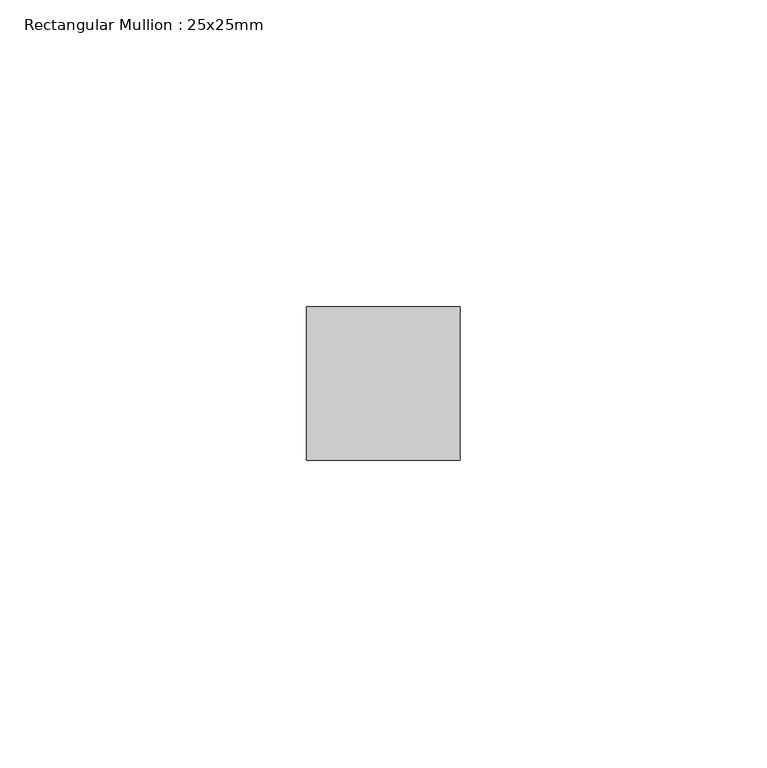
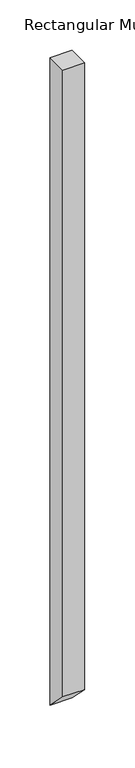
"""IFC4 building model written with IfcOpenShell, lengths in millimetres: member geometry, Rectangular Mullion : 25x25mm."""

from ifc_helpers import new_model, si_unit, frame, origin, place, context, project, spatial, polyline, outline, extrude, source, transform, mapped, element, save


def rectangular_mullion_25x25mm_576a80d7(model_context):
    return source(origin(), model_context, "Body", "SweptSolid", [
        extrude(outline(polyline([(-0.5, 0.0), (24.5, 0.0), (24.5, -784.5000001), (-0.5, -759.5000001), (-0.5, 0.0)])), frame((-25.0, 0.0, 0.0), z_axis=(1.0, 0.0, 0.0), x_axis=(0.0, 1.0, 0.0)), (0.0, 0.0, 1.0), 25.0),
    ])


if __name__ == "__main__":
    model = new_model("IFC4")
    model_context = context("Model", 3, world=origin())
    ifc_project = project(units=[si_unit("LENGTHUNIT", "METRE", prefix="MILLI")], contexts=[model_context])
    site = spatial("IfcSite", under=ifc_project)
    building = spatial("IfcBuilding", under=site)
    placement = place(None, origin())
    rectangular_mullion_25x25mm_shape = rectangular_mullion_25x25mm_576a80d7(model_context)
    element("IfcMember", 1, ObjectType="Rectangular Mullion : 25x25mm", at=placement, inside=building, context=model_context, shape_type="MappedRepresentation", body=[
        mapped(rectangular_mullion_25x25mm_shape, transform((0.0, 0.0, 0.0), x_axis=(1.0, 0.0, 0.0), y_axis=(0.0, 1.0, 0.0), z_axis=(0.0, 0.0, 1.0))),
    ])
    save(model, "model.ifc")
